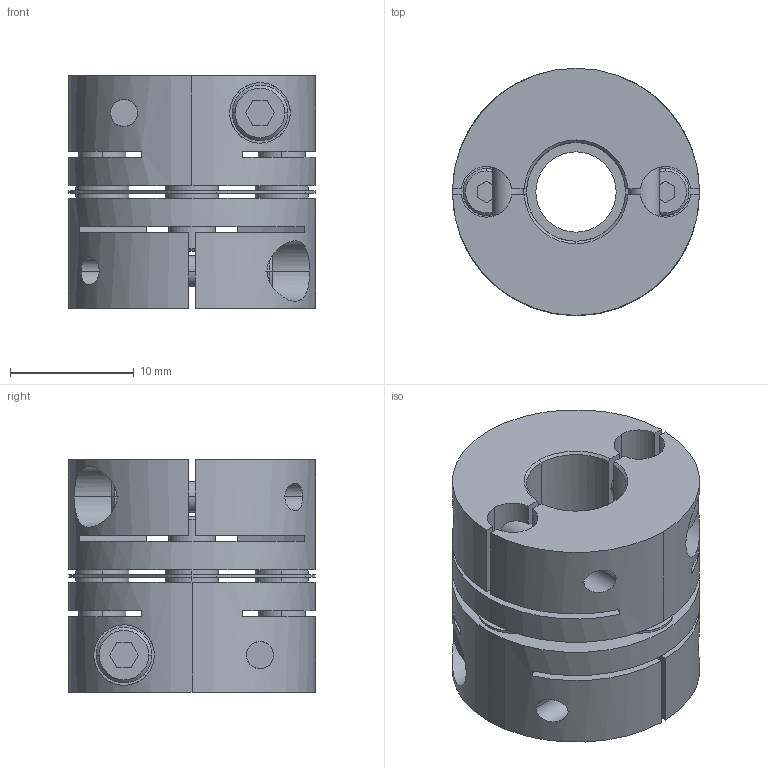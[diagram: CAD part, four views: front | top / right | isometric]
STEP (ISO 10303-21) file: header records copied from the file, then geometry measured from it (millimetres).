
FILE_DESCRIPTION((''),'2;1');
FILE_NAME('LAS-20C-8×8.stp','2011-08-10T08:59:35',(''),(''),'AutoCAD STEP 2000i','AutoCAD 2000i',', , ');
FILE_SCHEMA(('CONFIG_CONTROL_DESIGN'));
Length unit declared in the file: millimetre
Products named in the file (5): LAS-20C-4×4; 忣兜1; LA-2002-D04-1; LA-2002-D04; LAS20-ITA
Assembly tree (4 placements, depth 2):
  LAS-20C-4×4
    忣兜1
    LA-2002-D04-1
    LA-2002-D04
    LAS20-ITA
Bounding box: 20 x 20 x 18.8 mm (x, y, z)
Volume: 4147.6 mm3; surface area: 4435.7 mm2
Topology: 1 solids, 1 shells, 236 faces, 624 edges, 408 vertices
Faces by surface type: plane 112, cylinder 96, cone 28
Entity records: 8203 total; most frequent: CARTESIAN_POINT 2009, DIRECTION 1302, ORIENTED_EDGE 1248, EDGE_CURVE 624, AXIS2_PLACEMENT_3D 477, VERTEX_POINT 408, VECTOR 348, LINE 348
